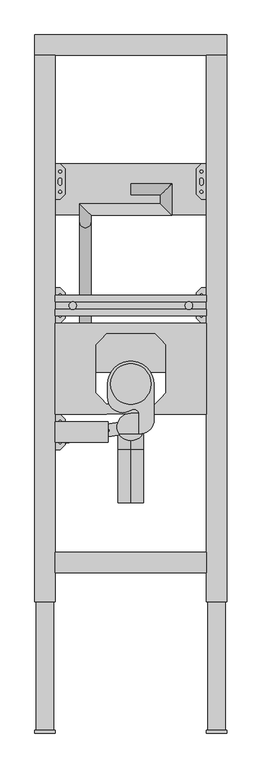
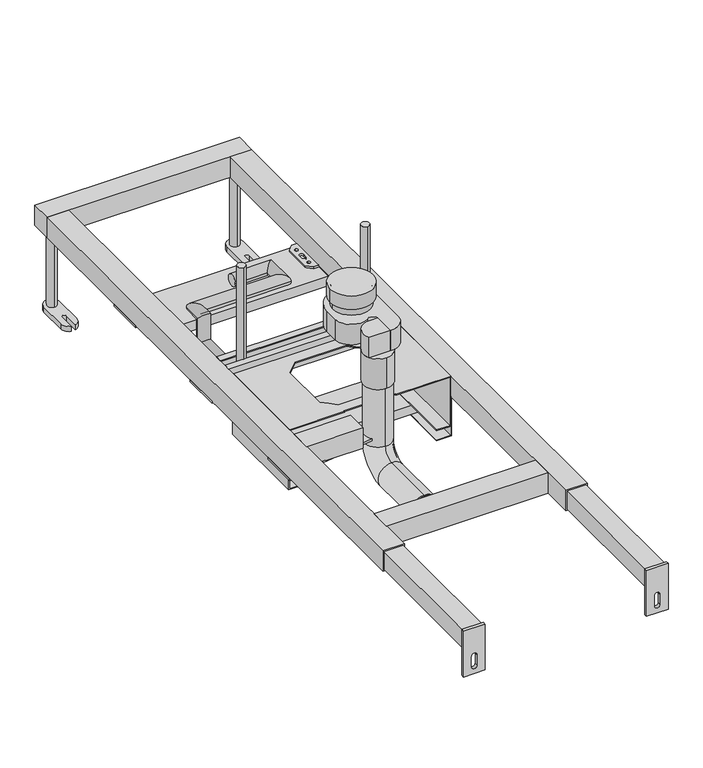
"""IFC4 building model written with IfcOpenShell, lengths in millimetres: sanitary terminal geometry, RSen_74_PF_FB_built-in element urinal xs electronic_wisa : urinal xs electronic_wisa_built-in element urinal."""

from ifc_helpers import new_model, si_unit, point, frame, frame_2d, origin, origin_with_axes, place, context, project, spatial, polyline, circle_curve, ellipse_curve, trimmed, segment, composite_curve, outline, extrude, faceted_brep, source, transform, mapped, element, save
from ifc_brep_helpers import plane_surface, cylinder_surface, revolved_surface, advanced_brep


def sanitary_terminal_6c8c0185(model_context):
    return source(origin(), model_context, "Body", "SolidModel", [
        extrude(outline(composite_curve([segment(trimmed(circle_curve(frame_2d((0.0, 489.9399545)), 40.0), [point((-40.0, 489.9399545))], [point((40.0, 489.9399545))], False, "CARTESIAN"), True, "CONTINUOUS"), segment(trimmed(circle_curve(frame_2d((0.0, 489.9399545)), 40.0), [point((40.0, 489.9399545))], [point((-40.0, 489.9399545))], False, "CARTESIAN"), True, "CONTINUOUS")], self_intersect=False)), frame((0.0, 0.0, 375.0), z_axis=(0.0, 0.0, 1.0), x_axis=(1.0, 0.0, 0.0)), (0.0, 0.0, 1.0), 26.0),
        extrude(outline(composite_curve([segment(trimmed(circle_curve(frame_2d((0.0, 489.9399545)), 35.0), [point((-35.0, 489.9399545))], [point((35.0, 489.9399545))], False, "CARTESIAN"), True, "CONTINUOUS"), segment(trimmed(circle_curve(frame_2d((0.0, 489.9399545)), 35.0), [point((35.0, 489.9399545))], [point((-35.0, 489.9399545))], False, "CARTESIAN"), True, "CONTINUOUS")], self_intersect=False)), frame((0.0, 0.0, 360.0), z_axis=(0.0, 0.0, 1.0), x_axis=(1.0, 0.0, 0.0)), (0.0, 0.0, 1.0), 40.0),
        extrude(outline(composite_curve([segment(trimmed(circle_curve(frame_2d((0.0, 489.0)), 46.0), [point((-46.0, 489.0))], [point((46.0, 489.0))], False, "CARTESIAN"), True, "CONTINUOUS"), segment(polyline([(46.0, 489.0), (46.0, 418.8328157)]), True, "CONTINUOUS"), segment(trimmed(circle_curve(frame_2d((19.0, 418.8328157)), 27.0), [point((46.0, 418.8328157))], [point((16.0, 392.0))], False, "CARTESIAN"), True, "CONTINUOUS"), segment(polyline([(16.0, 392.0), (16.0, 430.1457644)]), True, "CONTINUOUS"), segment(trimmed(circle_curve(frame_2d((6.0, 430.1457644)), 10.0), [point((16.0, 430.1457644))], [point((0.5, 438.4974109))], True, "CARTESIAN"), True, "CONTINUOUS"), segment(trimmed(circle_curve(frame_2d((-16.0, 463.5523505)), 30.0), [point((0.5, 438.4974109))], [point((-46.0, 463.5523505))], False, "CARTESIAN"), True, "CONTINUOUS"), segment(polyline([(-46.0, 463.5523505), (-46.0, 489.0)]), True, "CONTINUOUS")], self_intersect=False)), frame((0.0, 0.0, 320.0), z_axis=(0.0, 0.0, 1.0), x_axis=(1.0, 0.0, 0.0)), (0.0, 0.0, 1.0), 40.0),
        extrude(outline(composite_curve([segment(trimmed(circle_curve(frame_2d((0.0, 405.0)), 27.0), [point((-23.6643191, 392.0))], [point((0.0, 432.0))], False, "CARTESIAN"), True, "CONTINUOUS"), segment(polyline([(0.0, 432.0), (16.0, 432.0), (16.0, 392.0), (-23.6643191, 392.0)]), True, "CONTINUOUS")], self_intersect=False)), frame((0.0, 0.0, 320.0), z_axis=(0.0, 0.0, 1.0), x_axis=(1.0, 0.0, 0.0)), (0.0, 0.0, 1.0), 40.0),
        extrude(outline(composite_curve([segment(trimmed(circle_curve(frame_2d((0.0, 405.0)), 27.0), [point((0.0, 432.0))], [point((0.0, 378.0))], False, "CARTESIAN"), True, "CONTINUOUS"), segment(trimmed(circle_curve(frame_2d((0.0, 405.0)), 27.0), [point((0.0, 378.0))], [point((0.0, 432.0))], False, "CARTESIAN"), True, "CONTINUOUS")], self_intersect=False)), frame((0.0, 0.0, 260.0), z_axis=(0.0, 0.0, 1.0), x_axis=(1.0, 0.0, 0.0)), (0.0, 0.0, 1.0), 60.0),
        advanced_brep(
        [(0.0, 864.0, 171.0), (0.0, 886.0, 171.0), (59.0, 864.0, 171.0), (81.0, 886.0, 171.0), (59.0, 846.0, 171.0), (81.0, 824.0, 171.0), (-101.0, 846.0, 171.0), (-79.0, 824.0, 171.0), (-101.0, 810.0, 171.0), (-79.0, 810.0, 171.0), (-101.0, 810.0, 120.25), (-79.0, 810.0, 120.25), (-101.0, 610.0, 120.25), (-79.0, 610.0, 120.25)],
        [
            (0, 1, circle_curve(frame((0.0, 875.0, 171.0), z_axis=(-1.0, 0.0, 0.0), x_axis=(0.0, 1.0, 0.0)), 11.0)),
            (1, 0, circle_curve(frame((0.0, 875.0, 171.0), z_axis=(-1.0, 0.0, 0.0), x_axis=(0.0, 1.0, 0.0)), 11.0)),
            (0, 2),
            (2, 3, ellipse_curve(frame((70.0, 875.0, 171.0), z_axis=(-0.7071067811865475, 0.7071067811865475, 0.0), x_axis=(-0.7071067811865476, -0.7071067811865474, 0.0)), 15.5563492, 11.0)),
            (3, 1),
            (3, 2, ellipse_curve(frame((70.0, 875.0, 171.0), z_axis=(-0.7071067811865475, 0.7071067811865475, 0.0), x_axis=(-0.7071067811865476, -0.7071067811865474, 0.0)), 15.5563492, 11.0)),
            (2, 4),
            (4, 5, ellipse_curve(frame((70.0, 835.0, 171.0), z_axis=(0.7071067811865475, 0.7071067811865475, 0.0), x_axis=(-0.7071067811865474, 0.7071067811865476, 0.0)), 15.5563492, 11.0)),
            (5, 3),
            (5, 4, ellipse_curve(frame((70.0, 835.0, 171.0), z_axis=(0.7071067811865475, 0.7071067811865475, 0.0), x_axis=(-0.7071067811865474, 0.7071067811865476, 0.0)), 15.5563492, 11.0)),
            (4, 6),
            (6, 7, ellipse_curve(frame((-90.0, 835.0, 171.0), z_axis=(0.7071067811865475, 0.7071067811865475, 0.0), x_axis=(0.7071067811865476, -0.7071067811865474, 0.0)), 15.5563492, 11.0)),
            (7, 5),
            (7, 6, ellipse_curve(frame((-90.0, 835.0, 171.0), z_axis=(0.7071067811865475, 0.7071067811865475, 0.0), x_axis=(0.7071067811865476, -0.7071067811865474, 0.0)), 15.5563492, 11.0)),
            (6, 8),
            (8, 9, ellipse_curve(frame((-90.0, 810.0, 171.0), z_axis=(0.0, 0.7071067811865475, 0.7071067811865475), x_axis=(0.0, 0.7071067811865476, -0.7071067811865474)), 15.5563492, 11.0)),
            (9, 7),
            (9, 8, ellipse_curve(frame((-90.0, 810.0, 171.0), z_axis=(0.0, 0.7071067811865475, 0.7071067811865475), x_axis=(0.0, 0.7071067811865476, -0.7071067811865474)), 15.5563492, 11.0)),
            (8, 10),
            (10, 11, ellipse_curve(frame((-90.0, 810.0, 120.25), z_axis=(0.0, 0.7071067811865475, 0.7071067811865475), x_axis=(0.0, -0.7071067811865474, 0.7071067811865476)), 15.5563492, 11.0)),
            (11, 9),
            (11, 10, ellipse_curve(frame((-90.0, 810.0, 120.25), z_axis=(0.0, 0.7071067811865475, 0.7071067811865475), x_axis=(0.0, -0.7071067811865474, 0.7071067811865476)), 15.5563492, 11.0)),
            (12, 13, circle_curve(frame((-90.0, 610.0, 120.25), z_axis=(0.0, -1.0, 0.0), x_axis=(1.0, 0.0, 0.0)), 11.0)),
            (13, 12, circle_curve(frame((-90.0, 610.0, 120.25), z_axis=(0.0, -1.0, 0.0), x_axis=(1.0, 0.0, 0.0)), 11.0)),
            (10, 12),
            (13, 11),
        ],
        [
            plane_surface(frame((0.0, 875.0, 160.0), z_axis=(-1.0, 0.0, 0.0), x_axis=(0.0, 1.0, 0.0))),
            cylinder_surface(frame((0.0, 875.0, 171.0), z_axis=(-1.0, 0.0, 0.0), x_axis=(0.0, 1.0, 0.0)), 11.0),
            cylinder_surface(frame((70.0, 875.0, 171.0), z_axis=(0.0, 1.0, 0.0), x_axis=(1.0, 0.0, 0.0)), 11.0),
            cylinder_surface(frame((70.0, 835.0, 171.0), z_axis=(1.0, 0.0, 0.0), x_axis=(0.0, -1.0, 0.0)), 11.0),
            cylinder_surface(frame((-90.0, 835.0, 171.0), z_axis=(0.0, 1.0, 0.0), x_axis=(1.0, 0.0, 0.0)), 11.0),
            cylinder_surface(frame((-90.0, 810.0, 171.0), z_axis=(0.0, 0.0, 1.0), x_axis=(1.0, 0.0, 0.0)), 11.0),
            plane_surface(frame((-101.0, 610.0, 120.25), z_axis=(0.0, -1.0, 0.0), x_axis=(0.0, 0.0, -1.0))),
            cylinder_surface(frame((-90.0, 810.0, 120.25), z_axis=(0.0, 1.0, 0.0), x_axis=(1.0, 0.0, 0.0)), 11.0),
        ],
        [
            (0, [[1, 2]]),
            (1, [[-1, 3, 4, 5]]),
            (1, [[-2, -5, 6, -3]]),
            (2, [[-4, 7, 8, 9]]),
            (2, [[-6, -9, 10, -7]]),
            (3, [[-8, 11, 12, 13]]),
            (3, [[-10, -13, 14, -11]]),
            (4, [[-12, 15, 16, 17]]),
            (4, [[-14, -17, 18, -15]]),
            (5, [[-16, 19, 20, 21]]),
            (5, [[-18, -21, 22, -19]]),
            (6, [[23, 24]]),
            (7, [[-20, 25, -24, 26]]),
            (7, [[-22, -26, -23, -25]]),
        ],
    ),
        faceted_brep([(-150.0, 610.0, 101.5), (-150.0, 610.0, 200.0), (150.0, 610.0, 200.0), (150.0, 610.0, 101.5), (123.5, 610.0, 101.5), (123.5, 610.0, 103.5), (148.0, 610.0, 103.5), (148.0, 610.0, 198.0), (-148.0, 610.0, 198.0), (-148.0, 610.0, 103.5), (-123.5800615, 610.0, 103.5), (-123.5800615, 610.0, 101.5), (-150.0, 430.0, 101.5), (-123.5800615, 430.0, 101.5), (-123.5800615, 430.0, 103.5), (-148.0, 430.0, 103.5), (-148.0, 430.0, 198.0), (-47.6726189, 430.0, 198.0), (-47.6726189, 430.0, 200.0), (-150.0, 430.0, 200.0), (148.0, 430.0, 198.0), (148.0, 430.0, 103.5), (123.5, 430.0, 103.5), (123.5, 430.0, 101.5), (150.0, 430.0, 101.5), (150.0, 430.0, 200.0), (47.6726189, 430.0, 200.0), (47.6726189, 430.0, 198.0), (-47.6726189, 431.0, 200.0), (47.6726189, 431.0, 200.0), (47.6726189, 589.0, 200.0), (58.3363094, 578.3363094, 200.0), (69.0, 567.6726189, 200.0), (69.0, 472.3273811, 200.0), (58.3363094, 461.6636906, 200.0), (47.6726189, 451.0, 200.0), (-47.6726189, 451.0, 200.0), (-58.3363094, 461.6636906, 200.0), (-69.0, 472.3273811, 200.0), (-69.0, 567.6726189, 200.0), (-58.3363094, 578.3363094, 200.0), (-47.6726189, 589.0, 200.0), (47.6726189, 431.0, 198.0), (-47.6726189, 431.0, 198.0), (58.3363094, 578.3363094, 198.0), (47.6726189, 589.0, 198.0), (-47.6726189, 589.0, 198.0), (-58.3363094, 578.3363094, 198.0), (-69.0, 567.6726189, 198.0), (-69.0, 472.3273811, 198.0), (-58.3363094, 461.6636906, 198.0), (-47.6726189, 451.0, 198.0), (47.6726189, 451.0, 198.0), (58.3363094, 461.6636906, 198.0), (69.0, 472.3273811, 198.0), (69.0, 567.6726189, 198.0)], [[[0, 1, 2, 3, 4, 5, 6, 7, 8, 9, 10, 11]], [[12, 13, 14, 15, 16, 17, 18, 19]], [[20, 21, 22, 23, 24, 25, 26, 27]], [[1, 0, 12, 19]], [[2, 1, 19, 18, 28, 29, 26, 25], [30, 31, 32, 33, 34, 35, 36, 37, 38, 39, 40, 41]], [[3, 2, 25, 24]], [[4, 3, 24, 23]], [[5, 4, 23, 22]], [[6, 5, 22, 21]], [[7, 6, 21, 20]], [[8, 7, 20, 27, 42, 43, 17, 16], [44, 45, 46, 47, 48, 49, 50, 51, 52, 53, 54, 55]], [[9, 8, 16, 15]], [[10, 9, 15, 14]], [[11, 10, 14, 13]], [[0, 11, 13, 12]], [[44, 31, 30, 45]], [[31, 44, 55, 32]], [[32, 55, 54, 33]], [[33, 54, 53, 34]], [[34, 53, 52, 35]], [[35, 52, 51, 36]], [[36, 51, 50, 37]], [[37, 50, 49, 38]], [[38, 49, 48, 39]], [[39, 48, 47, 40]], [[40, 47, 46, 41]], [[45, 30, 41, 46]], [[29, 42, 27, 26]], [[43, 28, 18, 17]], [[42, 29, 28, 43]]]),
        extrude(outline(composite_curve([segment(polyline([(-131.927169, 398.0776204), (-23.2497123, 414.1897159)]), True, "CONTINUOUS"), segment(trimmed(circle_curve(frame_2d((0.0, 405.0)), 25.0), [point((-23.2497123, 414.1897159))], [point((-19.5833836, 389.4600165))], True, "CARTESIAN"), True, "CONTINUOUS"), segment(polyline([(-19.5833836, 389.4600165), (-128.2608403, 373.3479209), (-130.0940046, 385.7127707), (-131.927169, 398.0776204)]), True, "CONTINUOUS")], self_intersect=False), holes=[composite_curve([segment(polyline([(-46.3892943, 401.1545985), (-115.759634, 390.8700227)]), True, "CONTINUOUS"), segment(trimmed(circle_curve(frame_2d((-115.256185, 387.9125679)), 3.0), [point((-115.759634, 390.8700227))], [point((-114.8161595, 384.9450137))], True, "CARTESIAN"), True, "CONTINUOUS"), segment(polyline([(-114.8161595, 384.9450137), (-45.4776009, 395.2264551)]), True, "CONTINUOUS"), segment(trimmed(circle_curve(frame_2d((-46.0130266, 398.1782883)), 3.0), [point((-45.4776009, 395.2264551))], [point((-46.3892943, 401.1545985))], True, "CARTESIAN"), True, "CONTINUOUS")], self_intersect=False)]), frame((0.0, 0.0, 157.378088), z_axis=(0.0, 0.0, 1.0), x_axis=(1.0, 0.0, 0.0)), (0.0, 0.0, 1.0), 3.0),
        extrude(outline(composite_curve([segment(trimmed(circle_curve(frame_2d((-115.0, 645.0)), 7.5154833), [point((-115.0, 652.5154833))], [point((-115.0, 637.4845167))], False, "CARTESIAN"), True, "CONTINUOUS"), segment(trimmed(circle_curve(frame_2d((-115.0, 645.0)), 7.5154833), [point((-115.0, 637.4845167))], [point((-115.0, 652.5154833))], False, "CARTESIAN"), True, "CONTINUOUS")], self_intersect=False)), frame((0.0, 0.0, 180.0), z_axis=(0.0, 0.0, 1.0), x_axis=(1.0, 0.0, 0.0)), (0.0, 0.0, 1.0), 200.0),
        extrude(outline(composite_curve([segment(trimmed(circle_curve(frame_2d((115.0, 645.0)), 7.5154833), [point((115.0, 652.5154833))], [point((115.0, 637.4845167))], False, "CARTESIAN"), True, "CONTINUOUS"), segment(trimmed(circle_curve(frame_2d((115.0, 645.0)), 7.5154833), [point((115.0, 637.4845167))], [point((115.0, 652.5154833))], False, "CARTESIAN"), True, "CONTINUOUS")], self_intersect=False)), frame((0.0, 0.0, 180.0), z_axis=(0.0, 0.0, 1.0), x_axis=(1.0, 0.0, 0.0)), (0.0, 0.0, 1.0), 200.0),
        extrude(outline(polyline([(150.0, 610.0), (150.0, 513.0), (-150.0, 513.0), (-150.0, 610.0), (150.0, 610.0)])), frame((0.0, 0.0, 83.5), z_axis=(0.0, 0.0, 1.0), x_axis=(1.0, 0.0, 0.0)), (0.0, 0.0, 1.0), 18.0),
        extrude(outline(polyline([(160.0, 185.0), (160.0, 150.0), (83.5, 150.0), (83.5, 123.5), (82.0, 123.5), (82.0, 151.5), (158.5, 151.5), (158.5, 185.0), (160.0, 185.0)])), frame((0.0, 430.0, 0.0), z_axis=(0.0, 1.0, 0.0), x_axis=(0.0, 0.0, 1.0)), (0.0, 0.0, 1.0), 180.0),
        extrude(outline(polyline([(160.0, -185.0), (158.5, -185.0), (158.5, -151.5), (82.0, -151.5), (82.0, -123.5), (83.5, -123.5), (83.5, -150.0), (160.0, -150.0), (160.0, -185.0)])), frame((0.0, 430.0, 0.0), z_axis=(0.0, 1.0, 0.0), x_axis=(0.0, 0.0, 1.0)), (0.0, 0.0, 1.0), 180.0),
        extrude(outline(polyline([(625.0, 200.0), (637.4845167, 200.0), (637.4845167, 198.5), (626.5, 198.5), (626.5, 161.5), (663.5, 161.5), (663.5, 198.5), (652.5154833, 198.5), (652.5154833, 200.0), (665.0, 200.0), (665.0, 160.0), (625.0, 160.0), (625.0, 200.0)])), frame((-150.0, 0.0, 0.0), z_axis=(1.0, 0.0, 0.0), x_axis=(0.0, 1.0, 0.0)), (0.0, 0.0, 1.0), 300.0),
        extrude(outline(polyline([(140.0, 610.0), (130.0, 620.0), (130.0, 670.0), (140.0, 680.0), (190.0, 680.0), (190.0, 610.0), (140.0, 610.0)]), holes=[composite_curve([segment(trimmed(circle_curve(frame_2d((175.0, 645.0)), 4.5), [point((175.0, 640.5))], [point((175.0, 649.5))], True, "CARTESIAN"), True, "CONTINUOUS"), segment(trimmed(circle_curve(frame_2d((175.0, 645.0)), 4.5), [point((175.0, 649.5))], [point((175.0, 640.5))], True, "CARTESIAN"), True, "CONTINUOUS")], self_intersect=False), composite_curve([segment(trimmed(circle_curve(frame_2d((175.0, 665.0)), 4.5), [point((175.0, 660.5))], [point((175.0, 669.5))], True, "CARTESIAN"), True, "CONTINUOUS"), segment(trimmed(circle_curve(frame_2d((175.0, 665.0)), 4.5), [point((175.0, 669.5))], [point((175.0, 660.5))], True, "CARTESIAN"), True, "CONTINUOUS")], self_intersect=False), composite_curve([segment(trimmed(circle_curve(frame_2d((175.0, 625.0)), 4.5), [point((175.0, 620.5))], [point((175.0, 629.5))], True, "CARTESIAN"), True, "CONTINUOUS"), segment(trimmed(circle_curve(frame_2d((175.0, 625.0)), 4.5), [point((175.0, 629.5))], [point((175.0, 620.5))], True, "CARTESIAN"), True, "CONTINUOUS")], self_intersect=False), composite_curve([segment(trimmed(circle_curve(frame_2d((140.0, 665.0)), 2.9795218), [point((140.0, 662.0204782))], [point((140.0, 667.9795218))], True, "CARTESIAN"), True, "CONTINUOUS"), segment(trimmed(circle_curve(frame_2d((140.0, 665.0)), 2.9795218), [point((140.0, 667.9795218))], [point((140.0, 662.0204782))], True, "CARTESIAN"), True, "CONTINUOUS")], self_intersect=False), composite_curve([segment(trimmed(circle_curve(frame_2d((140.0, 625.0)), 2.9795218), [point((140.0, 622.0204782))], [point((140.0, 627.9795218))], True, "CARTESIAN"), True, "CONTINUOUS"), segment(trimmed(circle_curve(frame_2d((140.0, 625.0)), 2.9795218), [point((140.0, 627.9795218))], [point((140.0, 622.0204782))], True, "CARTESIAN"), True, "CONTINUOUS")], self_intersect=False), composite_curve([segment(trimmed(circle_curve(frame_2d((140.0, 648.5)), 3.5), [point((143.5, 648.5))], [point((136.5, 648.5))], True, "CARTESIAN"), True, "CONTINUOUS"), segment(polyline([(136.5, 648.5), (136.5, 641.5)]), True, "CONTINUOUS"), segment(trimmed(circle_curve(frame_2d((140.0, 641.5)), 3.5), [point((136.5, 641.5))], [point((143.5, 641.5))], True, "CARTESIAN"), True, "CONTINUOUS"), segment(polyline([(143.5, 641.5), (143.5, 648.5)]), True, "CONTINUOUS")], self_intersect=False)]), frame((0.0, 0.0, 156.0), z_axis=(0.0, 0.0, 1.0), x_axis=(1.0, 0.0, 0.0)), (0.0, 0.0, 1.0), 4.0),
        extrude(outline(polyline([(-140.0, 610.0), (-190.0, 610.0), (-190.0, 680.0), (-140.0, 680.0), (-130.0, 670.0), (-130.0, 620.0), (-140.0, 610.0)]), holes=[composite_curve([segment(trimmed(circle_curve(frame_2d((-175.0, 645.0)), 4.5), [point((-175.0, 640.5))], [point((-175.0, 649.5))], True, "CARTESIAN"), True, "CONTINUOUS"), segment(trimmed(circle_curve(frame_2d((-175.0, 645.0)), 4.5), [point((-175.0, 649.5))], [point((-175.0, 640.5))], True, "CARTESIAN"), True, "CONTINUOUS")], self_intersect=False), composite_curve([segment(trimmed(circle_curve(frame_2d((-175.0, 665.0)), 4.5), [point((-175.0, 660.5))], [point((-175.0, 669.5))], True, "CARTESIAN"), True, "CONTINUOUS"), segment(trimmed(circle_curve(frame_2d((-175.0, 665.0)), 4.5), [point((-175.0, 669.5))], [point((-175.0, 660.5))], True, "CARTESIAN"), True, "CONTINUOUS")], self_intersect=False), composite_curve([segment(trimmed(circle_curve(frame_2d((-175.0, 625.0)), 4.5), [point((-175.0, 620.5))], [point((-175.0, 629.5))], True, "CARTESIAN"), True, "CONTINUOUS"), segment(trimmed(circle_curve(frame_2d((-175.0, 625.0)), 4.5), [point((-175.0, 629.5))], [point((-175.0, 620.5))], True, "CARTESIAN"), True, "CONTINUOUS")], self_intersect=False), composite_curve([segment(trimmed(circle_curve(frame_2d((-140.0, 665.0)), 2.9795218), [point((-140.0, 662.0204782))], [point((-140.0, 667.9795218))], True, "CARTESIAN"), True, "CONTINUOUS"), segment(trimmed(circle_curve(frame_2d((-140.0, 665.0)), 2.9795218), [point((-140.0, 667.9795218))], [point((-140.0, 662.0204782))], True, "CARTESIAN"), True, "CONTINUOUS")], self_intersect=False), composite_curve([segment(trimmed(circle_curve(frame_2d((-140.0, 625.0)), 2.9795218), [point((-140.0, 622.0204782))], [point((-140.0, 627.9795218))], True, "CARTESIAN"), True, "CONTINUOUS"), segment(trimmed(circle_curve(frame_2d((-140.0, 625.0)), 2.9795218), [point((-140.0, 627.9795218))], [point((-140.0, 622.0204782))], True, "CARTESIAN"), True, "CONTINUOUS")], self_intersect=False), composite_curve([segment(polyline([(-143.5, 648.5), (-143.5, 641.5)]), True, "CONTINUOUS"), segment(trimmed(circle_curve(frame_2d((-140.0, 641.5)), 3.5), [point((-143.5, 641.5))], [point((-136.5, 641.5))], True, "CARTESIAN"), True, "CONTINUOUS"), segment(polyline([(-136.5, 641.5), (-136.5, 648.5)]), True, "CONTINUOUS"), segment(trimmed(circle_curve(frame_2d((-140.0, 648.5)), 3.5), [point((-136.5, 648.5))], [point((-143.5, 648.5))], True, "CARTESIAN"), True, "CONTINUOUS")], self_intersect=False)]), frame((0.0, 0.0, 156.0), z_axis=(0.0, 0.0, 1.0), x_axis=(1.0, 0.0, 0.0)), (0.0, 0.0, 1.0), 4.0),
        extrude(outline(polyline([(150.0, 925.0), (150.0, 825.0), (-150.0, 825.0), (-150.0, 925.0), (150.0, 925.0)])), frame((0.0, 0.0, 138.0), z_axis=(0.0, 0.0, 1.0), x_axis=(1.0, 0.0, 0.0)), (0.0, 0.0, 1.0), 18.0),
        extrude(outline(polyline([(-45.0, 415.0), (-45.0, 375.0), (-150.0, 375.0), (-150.0, 415.0), (-45.0, 415.0)])), frame((0.0, 0.0, 160.0), z_axis=(0.0, 0.0, 1.0), x_axis=(1.0, 0.0, 0.0)), (0.0, 0.0, 1.0), 40.0),
        extrude(outline(polyline([(140.0, 855.0), (130.0, 865.0), (130.0, 915.0), (140.0, 925.0), (190.0, 925.0), (190.0, 855.0), (140.0, 855.0)]), holes=[composite_curve([segment(trimmed(circle_curve(frame_2d((175.0, 890.0)), 4.5), [point((175.0, 885.5))], [point((175.0, 894.5))], True, "CARTESIAN"), True, "CONTINUOUS"), segment(trimmed(circle_curve(frame_2d((175.0, 890.0)), 4.5), [point((175.0, 894.5))], [point((175.0, 885.5))], True, "CARTESIAN"), True, "CONTINUOUS")], self_intersect=False), composite_curve([segment(trimmed(circle_curve(frame_2d((175.0, 910.0)), 4.5), [point((175.0, 905.5))], [point((175.0, 914.5))], True, "CARTESIAN"), True, "CONTINUOUS"), segment(trimmed(circle_curve(frame_2d((175.0, 910.0)), 4.5), [point((175.0, 914.5))], [point((175.0, 905.5))], True, "CARTESIAN"), True, "CONTINUOUS")], self_intersect=False), composite_curve([segment(trimmed(circle_curve(frame_2d((175.0, 870.0)), 4.5), [point((175.0, 865.5))], [point((175.0, 874.5))], True, "CARTESIAN"), True, "CONTINUOUS"), segment(trimmed(circle_curve(frame_2d((175.0, 870.0)), 4.5), [point((175.0, 874.5))], [point((175.0, 865.5))], True, "CARTESIAN"), True, "CONTINUOUS")], self_intersect=False), composite_curve([segment(trimmed(circle_curve(frame_2d((140.0, 910.0)), 2.9795218), [point((140.0, 907.0204782))], [point((140.0, 912.9795218))], True, "CARTESIAN"), True, "CONTINUOUS"), segment(trimmed(circle_curve(frame_2d((140.0, 910.0)), 2.9795218), [point((140.0, 912.9795218))], [point((140.0, 907.0204782))], True, "CARTESIAN"), True, "CONTINUOUS")], self_intersect=False), composite_curve([segment(trimmed(circle_curve(frame_2d((140.0, 870.0)), 2.9795218), [point((140.0, 867.0204782))], [point((140.0, 872.9795218))], True, "CARTESIAN"), True, "CONTINUOUS"), segment(trimmed(circle_curve(frame_2d((140.0, 870.0)), 2.9795218), [point((140.0, 872.9795218))], [point((140.0, 867.0204782))], True, "CARTESIAN"), True, "CONTINUOUS")], self_intersect=False), composite_curve([segment(trimmed(circle_curve(frame_2d((140.0, 893.5)), 3.5), [point((143.5, 893.5))], [point((136.5, 893.5))], True, "CARTESIAN"), True, "CONTINUOUS"), segment(polyline([(136.5, 893.5), (136.5, 886.5)]), True, "CONTINUOUS"), segment(trimmed(circle_curve(frame_2d((140.0, 886.5)), 3.5), [point((136.5, 886.5))], [point((143.5, 886.5))], True, "CARTESIAN"), True, "CONTINUOUS"), segment(polyline([(143.5, 886.5), (143.5, 893.5)]), True, "CONTINUOUS")], self_intersect=False)]), frame((0.0, 0.0, 156.0), z_axis=(0.0, 0.0, 1.0), x_axis=(1.0, 0.0, 0.0)), (0.0, 0.0, 1.0), 4.0),
        extrude(outline(polyline([(-140.0, 855.0), (-190.0, 855.0), (-190.0, 925.0), (-140.0, 925.0), (-130.0, 915.0), (-130.0, 865.0), (-140.0, 855.0)]), holes=[composite_curve([segment(trimmed(circle_curve(frame_2d((-175.0, 890.0)), 4.5), [point((-175.0, 885.5))], [point((-175.0, 894.5))], True, "CARTESIAN"), True, "CONTINUOUS"), segment(trimmed(circle_curve(frame_2d((-175.0, 890.0)), 4.5), [point((-175.0, 894.5))], [point((-175.0, 885.5))], True, "CARTESIAN"), True, "CONTINUOUS")], self_intersect=False), composite_curve([segment(trimmed(circle_curve(frame_2d((-175.0, 910.0)), 4.5), [point((-175.0, 905.5))], [point((-175.0, 914.5))], True, "CARTESIAN"), True, "CONTINUOUS"), segment(trimmed(circle_curve(frame_2d((-175.0, 910.0)), 4.5), [point((-175.0, 914.5))], [point((-175.0, 905.5))], True, "CARTESIAN"), True, "CONTINUOUS")], self_intersect=False), composite_curve([segment(trimmed(circle_curve(frame_2d((-175.0, 870.0)), 4.5), [point((-175.0, 865.5))], [point((-175.0, 874.5))], True, "CARTESIAN"), True, "CONTINUOUS"), segment(trimmed(circle_curve(frame_2d((-175.0, 870.0)), 4.5), [point((-175.0, 874.5))], [point((-175.0, 865.5))], True, "CARTESIAN"), True, "CONTINUOUS")], self_intersect=False), composite_curve([segment(trimmed(circle_curve(frame_2d((-140.0, 910.0)), 2.9795218), [point((-140.0, 907.0204782))], [point((-140.0, 912.9795218))], True, "CARTESIAN"), True, "CONTINUOUS"), segment(trimmed(circle_curve(frame_2d((-140.0, 910.0)), 2.9795218), [point((-140.0, 912.9795218))], [point((-140.0, 907.0204782))], True, "CARTESIAN"), True, "CONTINUOUS")], self_intersect=False), composite_curve([segment(trimmed(circle_curve(frame_2d((-140.0, 870.0)), 2.9795218), [point((-140.0, 867.0204782))], [point((-140.0, 872.9795218))], True, "CARTESIAN"), True, "CONTINUOUS"), segment(trimmed(circle_curve(frame_2d((-140.0, 870.0)), 2.9795218), [point((-140.0, 872.9795218))], [point((-140.0, 867.0204782))], True, "CARTESIAN"), True, "CONTINUOUS")], self_intersect=False), composite_curve([segment(polyline([(-143.5, 893.5), (-143.5, 886.5)]), True, "CONTINUOUS"), segment(trimmed(circle_curve(frame_2d((-140.0, 886.5)), 3.5), [point((-143.5, 886.5))], [point((-136.5, 886.5))], True, "CARTESIAN"), True, "CONTINUOUS"), segment(polyline([(-136.5, 886.5), (-136.5, 893.5)]), True, "CONTINUOUS"), segment(trimmed(circle_curve(frame_2d((-140.0, 893.5)), 3.5), [point((-136.5, 893.5))], [point((-143.5, 893.5))], True, "CARTESIAN"), True, "CONTINUOUS")], self_intersect=False)]), frame((0.0, 0.0, 156.0), z_axis=(0.0, 0.0, 1.0), x_axis=(1.0, 0.0, 0.0)), (0.0, 0.0, 1.0), 4.0),
        advanced_brep(
        [(0.0, 255.0, 75.0), (0.0, 255.0, 125.0), (0.0, 255.0, 77.0), (0.0, 255.0, 123.0), (0.0, 360.0, 75.0), (0.0, 360.0, 125.0), (0.0, 430.0, 260.0), (0.0, 380.0, 260.0), (0.0, 428.0, 260.0), (0.0, 382.0, 260.0), (0.0, 380.0, 145.0), (0.0, 430.0, 145.0), (0.0, 360.0, 77.0), (0.0, 360.0, 123.0), (0.0, 382.0, 145.0), (0.0, 428.0, 145.0)],
        [
            (0, 1, circle_curve(frame((0.0, 255.0, 100.0), z_axis=(0.0, -1.0, 0.0), x_axis=(0.0, 0.0, 1.0)), 25.0)),
            (1, 0, circle_curve(frame((0.0, 255.0, 100.0), z_axis=(0.0, -1.0, 0.0), x_axis=(0.0, 0.0, 1.0)), 25.0)),
            (2, 3, circle_curve(frame((0.0, 255.0, 100.0), z_axis=(0.0, 1.0, 0.0), x_axis=(0.0, 0.0, 1.0)), 23.0)),
            (3, 2, circle_curve(frame((0.0, 255.0, 100.0), z_axis=(0.0, 1.0, 0.0), x_axis=(0.0, 0.0, 1.0)), 23.0)),
            (0, 4),
            (4, 5, circle_curve(frame((0.0, 360.0, 100.0), z_axis=(0.0, -1.0, 0.0), x_axis=(0.0, 0.0, 1.0)), 25.0)),
            (5, 1),
            (5, 4, circle_curve(frame((0.0, 360.0, 100.0), z_axis=(0.0, -1.0, 0.0), x_axis=(0.0, 0.0, 1.0)), 25.0)),
            (6, 7, circle_curve(frame((0.0, 405.0, 260.0), z_axis=(0.0, 0.0, 1.0), x_axis=(0.0, -1.0, 0.0)), 25.0)),
            (7, 6, circle_curve(frame((0.0, 405.0, 260.0), z_axis=(0.0, 0.0, 1.0), x_axis=(0.0, -1.0, 0.0)), 25.0)),
            (8, 9, circle_curve(frame((0.0, 405.0, 260.0), z_axis=(0.0, 0.0, -1.0), x_axis=(0.0, -1.0, 0.0)), 23.0)),
            (9, 8, circle_curve(frame((0.0, 405.0, 260.0), z_axis=(0.0, 0.0, -1.0), x_axis=(0.0, -1.0, 0.0)), 23.0)),
            (10, 11, circle_curve(frame((0.0, 405.0, 145.0), z_axis=(0.0, 0.0, 1.0), x_axis=(0.0, -1.0, 0.0)), 25.0)),
            (11, 6),
            (7, 10),
            (11, 10, circle_curve(frame((0.0, 405.0, 145.0), z_axis=(0.0, 0.0, 1.0), x_axis=(0.0, -1.0, 0.0)), 25.0)),
            (10, 5, circle_curve(frame((0.0, 360.0, 145.0), z_axis=(-1.0, 0.0, 0.0), x_axis=(0.0, 0.0, -1.0)), 20.0)),
            (4, 11, circle_curve(frame((0.0, 360.0, 145.0), z_axis=(1.0, 0.0, 0.0), x_axis=(0.0, 0.0, -1.0)), 70.0)),
            (2, 12),
            (12, 13, circle_curve(frame((0.0, 360.0, 100.0), z_axis=(0.0, 1.0, 0.0), x_axis=(0.0, 0.0, 1.0)), 23.0)),
            (13, 3),
            (13, 12, circle_curve(frame((0.0, 360.0, 100.0), z_axis=(0.0, 1.0, 0.0), x_axis=(0.0, 0.0, 1.0)), 23.0)),
            (14, 13, circle_curve(frame((0.0, 360.0, 145.0), z_axis=(-1.0, 0.0, 0.0), x_axis=(0.0, 0.0, -1.0)), 22.0)),
            (12, 15, circle_curve(frame((0.0, 360.0, 145.0), z_axis=(1.0, 0.0, 0.0), x_axis=(0.0, 0.0, -1.0)), 68.0)),
            (15, 14, circle_curve(frame((0.0, 405.0, 145.0), z_axis=(0.0, 0.0, 1.0), x_axis=(0.0, -1.0, 0.0)), 23.0)),
            (14, 15, circle_curve(frame((0.0, 405.0, 145.0), z_axis=(0.0, 0.0, 1.0), x_axis=(0.0, -1.0, 0.0)), 23.0)),
            (15, 8),
            (9, 14),
        ],
        [
            plane_surface(frame((0.0, 255.0, 100.0), z_axis=(0.0, -1.0, 0.0), x_axis=(1.0, 0.0, 0.0))),
            cylinder_surface(frame((0.0, 255.0, 100.0), z_axis=(0.0, -1.0, 0.0), x_axis=(0.0, 0.0, 1.0)), 25.0),
            plane_surface(frame((0.0, 405.0, 260.0), z_axis=(0.0, 0.0, 1.0), x_axis=(1.0, 0.0, 0.0))),
            cylinder_surface(frame((0.0, 405.0, 145.0), z_axis=(0.0, 0.0, -1.0), x_axis=(0.0, -1.0, 0.0)), 25.0),
            revolved_surface(trimmed(ellipse_curve(frame((0.0, 360.0, 100.0), z_axis=(0.0, -1.0, 0.0), x_axis=(0.0, 0.0, 1.0)), 25.0, 25.0), [point((0.0, 360.0, 75.0))], [point((0.0, 360.0, 125.0))], True, "CARTESIAN"), (0.0, 360.0, 145.0), (1.0, 0.0, 0.0)),
            revolved_surface(trimmed(ellipse_curve(frame((0.0, 360.0, 100.0), z_axis=(0.0, -1.0, 0.0), x_axis=(0.0, 0.0, 1.0)), 25.0, 25.0), [point((0.0, 360.0, 125.0))], [point((0.0, 360.0, 75.0))], True, "CARTESIAN"), (0.0, 360.0, 145.0), (1.0, 0.0, 0.0)),
            revolved_surface(polyline([(0.0, 360.0, 123.0), (0.0, 255.0, 123.0)]), (0.0, 255.0, 100.0), (0.0, 1.0, 0.0)),
            revolved_surface(trimmed(ellipse_curve(frame((0.0, 360.0, 100.0), z_axis=(0.0, 1.0, 0.0), x_axis=(0.0, 0.0, 1.0)), 23.0, 23.0), [point((0.0, 360.0, 77.0))], [point((0.0, 360.0, 123.0))], True, "CARTESIAN"), (0.0, 360.0, 145.0), (1.0, 0.0, 0.0)),
            revolved_surface(trimmed(ellipse_curve(frame((0.0, 360.0, 100.0), z_axis=(0.0, 1.0, 0.0), x_axis=(0.0, 0.0, 1.0)), 23.0, 23.0), [point((0.0, 360.0, 123.0))], [point((0.0, 360.0, 77.0))], True, "CARTESIAN"), (0.0, 360.0, 145.0), (1.0, 0.0, 0.0)),
            revolved_surface(polyline([(0.0, 382.0, 260.0), (0.0, 382.0, 145.0)]), (0.0, 405.0, 145.0), (0.0, 0.0, 1.0)),
        ],
        [
            (0, [[1, 2], [3, 4]]),
            (1, [[-1, 5, 6, 7]]),
            (1, [[-2, -7, 8, -5]]),
            (2, [[9, 10], [11, 12]]),
            (3, [[13, 14, -10, 15]]),
            (3, [[16, -15, -9, -14]]),
            (4, [[17, -6, 18, -13]]),
            (5, [[-18, -8, -17, -16]]),
            (6, [[-3, 19, 20, 21]]),
            (6, [[-4, -21, 22, -19]]),
            (7, [[23, -20, 24, 25]]),
            (8, [[-24, -22, -23, 26]]),
            (9, [[-25, 27, -12, 28]]),
            (9, [[-26, -28, -11, -27]]),
        ],
    ),
        extrude(outline(polyline([(-140.0, 360.0), (-190.0, 360.0), (-190.0, 430.0), (-140.0, 430.0), (-130.0, 420.0), (-130.0, 370.0), (-140.0, 360.0)]), holes=[composite_curve([segment(trimmed(circle_curve(frame_2d((-175.0, 395.0)), 4.5), [point((-175.0, 390.5))], [point((-175.0, 399.5))], True, "CARTESIAN"), True, "CONTINUOUS"), segment(trimmed(circle_curve(frame_2d((-175.0, 395.0)), 4.5), [point((-175.0, 399.5))], [point((-175.0, 390.5))], True, "CARTESIAN"), True, "CONTINUOUS")], self_intersect=False), composite_curve([segment(trimmed(circle_curve(frame_2d((-175.0, 415.0)), 4.5), [point((-175.0, 410.5))], [point((-175.0, 419.5))], True, "CARTESIAN"), True, "CONTINUOUS"), segment(trimmed(circle_curve(frame_2d((-175.0, 415.0)), 4.5), [point((-175.0, 419.5))], [point((-175.0, 410.5))], True, "CARTESIAN"), True, "CONTINUOUS")], self_intersect=False), composite_curve([segment(trimmed(circle_curve(frame_2d((-175.0, 375.0)), 4.5), [point((-175.0, 370.5))], [point((-175.0, 379.5))], True, "CARTESIAN"), True, "CONTINUOUS"), segment(trimmed(circle_curve(frame_2d((-175.0, 375.0)), 4.5), [point((-175.0, 379.5))], [point((-175.0, 370.5))], True, "CARTESIAN"), True, "CONTINUOUS")], self_intersect=False), composite_curve([segment(trimmed(circle_curve(frame_2d((-140.0, 415.0)), 2.9795218), [point((-140.0, 412.0204782))], [point((-140.0, 417.9795218))], True, "CARTESIAN"), True, "CONTINUOUS"), segment(trimmed(circle_curve(frame_2d((-140.0, 415.0)), 2.9795218), [point((-140.0, 417.9795218))], [point((-140.0, 412.0204782))], True, "CARTESIAN"), True, "CONTINUOUS")], self_intersect=False), composite_curve([segment(trimmed(circle_curve(frame_2d((-140.0, 375.0)), 2.9795218), [point((-140.0, 372.0204782))], [point((-140.0, 377.9795218))], True, "CARTESIAN"), True, "CONTINUOUS"), segment(trimmed(circle_curve(frame_2d((-140.0, 375.0)), 2.9795218), [point((-140.0, 377.9795218))], [point((-140.0, 372.0204782))], True, "CARTESIAN"), True, "CONTINUOUS")], self_intersect=False), composite_curve([segment(polyline([(-143.5, 398.5), (-143.5, 391.5)]), True, "CONTINUOUS"), segment(trimmed(circle_curve(frame_2d((-140.0, 391.5)), 3.5), [point((-143.5, 391.5))], [point((-136.5, 391.5))], True, "CARTESIAN"), True, "CONTINUOUS"), segment(polyline([(-136.5, 391.5), (-136.5, 398.5)]), True, "CONTINUOUS"), segment(trimmed(circle_curve(frame_2d((-140.0, 398.5)), 3.5), [point((-136.5, 398.5))], [point((-143.5, 398.5))], True, "CARTESIAN"), True, "CONTINUOUS")], self_intersect=False)]), frame((0.0, 0.0, 156.0), z_axis=(0.0, 0.0, 1.0), x_axis=(1.0, 0.0, 0.0)), (0.0, 0.0, 1.0), 4.0),
        extrude(outline(composite_curve([segment(trimmed(circle_curve(frame_2d((-170.0, 1160.0)), 8.75), [point((-170.0, 1151.25))], [point((-170.0, 1168.75))], False, "CARTESIAN"), True, "CONTINUOUS"), segment(trimmed(circle_curve(frame_2d((-170.0, 1160.0)), 8.75), [point((-170.0, 1168.75))], [point((-170.0, 1151.25))], False, "CARTESIAN"), True, "CONTINUOUS")], self_intersect=False)), frame((0.0, 0.0, 10.0), z_axis=(0.0, 0.0, 1.0), x_axis=(1.0, 0.0, 0.0)), (0.0, 0.0, 1.0), 150.0),
        extrude(outline(composite_curve([segment(trimmed(circle_curve(frame_2d((170.0, 1160.0)), 8.75), [point((170.0, 1151.25))], [point((170.0, 1168.75))], False, "CARTESIAN"), True, "CONTINUOUS"), segment(trimmed(circle_curve(frame_2d((170.0, 1160.0)), 8.75), [point((170.0, 1168.75))], [point((170.0, 1151.25))], False, "CARTESIAN"), True, "CONTINUOUS")], self_intersect=False)), frame((0.0, 0.0, 10.0), z_axis=(0.0, 0.0, 1.0), x_axis=(1.0, 0.0, 0.0)), (0.0, 0.0, 1.0), 150.0),
        extrude(outline(composite_curve([segment(trimmed(circle_curve(frame_2d((-170.0, 1160.0)), 15.0), [point((-185.0, 1160.0))], [point((-155.0, 1160.0))], False, "CARTESIAN"), True, "CONTINUOUS"), segment(polyline([(-155.0, 1160.0), (-155.0, 1106.0)]), True, "CONTINUOUS"), segment(trimmed(circle_curve(frame_2d((-170.0, 1106.0)), 15.0), [point((-155.0, 1106.0))], [point((-166.0, 1091.5431677))], False, "CARTESIAN"), True, "CONTINUOUS"), segment(polyline([(-166.0, 1091.5431677), (-166.0, 1120.4568323)]), True, "CONTINUOUS"), segment(trimmed(circle_curve(frame_2d((-170.0, 1120.4568323)), 4.0), [point((-166.0, 1120.4568323))], [point((-174.0, 1120.4568323))], True, "CARTESIAN"), True, "CONTINUOUS"), segment(polyline([(-174.0, 1120.4568323), (-174.0, 1091.5431677)]), True, "CONTINUOUS"), segment(trimmed(circle_curve(frame_2d((-170.0, 1106.0)), 15.0), [point((-174.0, 1091.5431677))], [point((-185.0, 1106.0))], False, "CARTESIAN"), True, "CONTINUOUS"), segment(polyline([(-185.0, 1106.0), (-185.0, 1160.0)]), True, "CONTINUOUS")], self_intersect=False)), origin_with_axes(), (0.0, 0.0, 1.0), 10.0),
        extrude(outline(composite_curve([segment(polyline([(185.0, 1160.0), (185.0, 1106.0)]), True, "CONTINUOUS"), segment(trimmed(circle_curve(frame_2d((170.0, 1106.0)), 15.0), [point((185.0, 1106.0))], [point((174.0, 1091.5431677))], False, "CARTESIAN"), True, "CONTINUOUS"), segment(polyline([(174.0, 1091.5431677), (174.0, 1120.4568323)]), True, "CONTINUOUS"), segment(trimmed(circle_curve(frame_2d((170.0, 1120.4568323)), 4.0), [point((174.0, 1120.4568323))], [point((166.0, 1120.4568323))], True, "CARTESIAN"), True, "CONTINUOUS"), segment(polyline([(166.0, 1120.4568323), (166.0, 1091.5431677)]), True, "CONTINUOUS"), segment(trimmed(circle_curve(frame_2d((170.0, 1106.0)), 15.0), [point((166.0, 1091.5431677))], [point((155.0, 1106.0))], False, "CARTESIAN"), True, "CONTINUOUS"), segment(polyline([(155.0, 1106.0), (155.0, 1160.0)]), True, "CONTINUOUS"), segment(trimmed(circle_curve(frame_2d((170.0, 1160.0)), 15.0), [point((155.0, 1160.0))], [point((185.0, 1160.0))], False, "CARTESIAN"), True, "CONTINUOUS")], self_intersect=False)), origin_with_axes(), (0.0, 0.0, 1.0), 10.0),
        extrude(outline(polyline([(-187.5, 349.0), (-152.5, 349.0), (-152.5, -194.0), (-187.5, -194.0), (-187.5, 349.0)])), frame((0.0, 0.0, 162.5), z_axis=(0.0, 0.0, 1.0), x_axis=(1.0, 0.0, 0.0)), (0.0, 0.0, 1.0), 35.0),
        extrude(outline(polyline([(152.4841074, 349.0), (187.4841074, 349.0), (187.4841074, -194.0), (152.4841074, -194.0), (152.4841074, 349.0)])), frame((0.0, 0.0, 162.5), z_axis=(0.0, 0.0, 1.0), x_axis=(1.0, 0.0, 0.0)), (0.0, 0.0, 1.0), 35.0),
        extrude(outline(polyline([(200.0, 190.0), (200.0, 150.0), (110.0, 150.0), (110.0, 190.0), (200.0, 190.0)]), holes=[composite_curve([segment(trimmed(circle_curve(frame_2d((145.0, 170.0)), 5.0), [point((145.0, 165.0))], [point((145.0, 175.0))], True, "CARTESIAN"), True, "CONTINUOUS"), segment(polyline([(145.0, 175.0), (125.0, 175.0)]), True, "CONTINUOUS"), segment(trimmed(circle_curve(frame_2d((125.0, 170.0)), 5.0), [point((125.0, 175.0))], [point((125.0, 165.0))], True, "CARTESIAN"), True, "CONTINUOUS"), segment(polyline([(125.0, 165.0), (145.0, 165.0)]), True, "CONTINUOUS")], self_intersect=False)]), frame((0.0, -200.0, 0.0), z_axis=(0.0, 1.0, 0.0), x_axis=(0.0, 0.0, 1.0)), (0.0, 0.0, 1.0), 6.0),
        extrude(outline(polyline([(200.0, -150.0), (200.0, -190.0), (110.0, -190.0), (110.0, -150.0), (200.0, -150.0)]), holes=[composite_curve([segment(trimmed(circle_curve(frame_2d((145.0, -170.0)), 5.0), [point((145.0, -175.0))], [point((145.0, -165.0))], True, "CARTESIAN"), True, "CONTINUOUS"), segment(polyline([(145.0, -165.0), (125.0, -165.0)]), True, "CONTINUOUS"), segment(trimmed(circle_curve(frame_2d((125.0, -170.0)), 5.0), [point((125.0, -165.0))], [point((125.0, -175.0))], True, "CARTESIAN"), True, "CONTINUOUS"), segment(polyline([(125.0, -175.0), (145.0, -175.0)]), True, "CONTINUOUS")], self_intersect=False)]), frame((0.0, -200.0, 0.0), z_axis=(0.0, 1.0, 0.0), x_axis=(0.0, 0.0, 1.0)), (0.0, 0.0, 1.0), 6.0),
        extrude(outline(polyline([(150.0, 157.0), (150.0, 117.0), (-150.0, 117.0), (-150.0, 157.0), (150.0, 157.0)])), frame((0.0, 0.0, 160.0), z_axis=(0.0, 0.0, 1.0), x_axis=(1.0, 0.0, 0.0)), (0.0, 0.0, 1.0), 40.0),
        extrude(outline(polyline([(-150.0, 60.0), (-190.0, 60.0), (-190.0, 1140.0), (-150.0, 1140.0), (-150.0, 60.0)])), frame((0.0, 0.0, 160.0), z_axis=(0.0, 0.0, 1.0), x_axis=(1.0, 0.0, 0.0)), (0.0, 0.0, 1.0), 40.0),
        extrude(outline(polyline([(190.0, 60.0), (150.0, 60.0), (150.0, 1140.0), (190.0, 1140.0), (190.0, 60.0)])), frame((0.0, 0.0, 160.0), z_axis=(0.0, 0.0, 1.0), x_axis=(1.0, 0.0, 0.0)), (0.0, 0.0, 1.0), 40.0),
        extrude(outline(polyline([(190.0, 1180.0), (190.0, 1140.0), (-190.0, 1140.0), (-190.0, 1180.0), (190.0, 1180.0)])), frame((0.0, 0.0, 160.0), z_axis=(0.0, 0.0, 1.0), x_axis=(1.0, 0.0, 0.0)), (0.0, 0.0, 1.0), 40.0),
    ])


if __name__ == "__main__":
    model = new_model("IFC4")
    model_context = context("Model", 3, world=origin())
    ifc_project = project(units=[si_unit("LENGTHUNIT", "METRE", prefix="MILLI")], contexts=[model_context])
    site = spatial("IfcSite", under=ifc_project)
    building = spatial("IfcBuilding", under=site)
    placement = place(None, origin())
    sanitary_terminal_shape = sanitary_terminal_6c8c0185(model_context)
    element("IfcSanitaryTerminal", 1, ObjectType="RSen_74_PF_FB_built-in element urinal xs electronic_wisa : urinal xs electronic_wisa_built-in element urinal", at=placement, inside=building, context=model_context, shape_type="MappedRepresentation", body=[
        mapped(sanitary_terminal_shape, transform((0.0, 0.0, 0.0), x_axis=(1.0, 0.0, 0.0), y_axis=(0.0, 1.0, 0.0), z_axis=(0.0, 0.0, 1.0))),
    ])
    save(model, "model.ifc")
